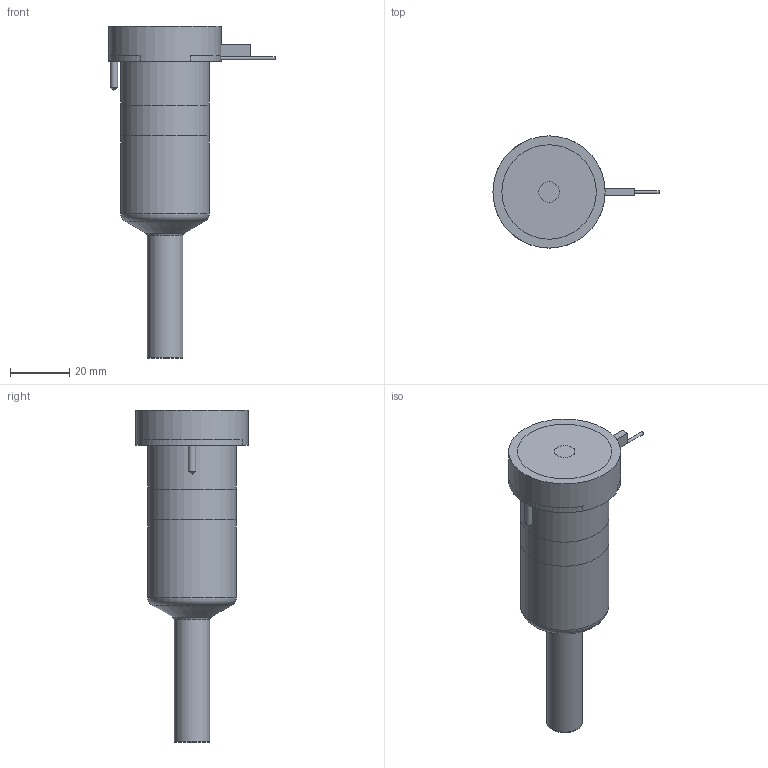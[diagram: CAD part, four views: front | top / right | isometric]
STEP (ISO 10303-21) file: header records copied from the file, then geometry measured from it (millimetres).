
FILE_DESCRIPTION(/* description */ (''),/* implementation_level */ '2;1');
FILE_NAME(/* name */ 'BXTSL-BXISL-BXOSL16065_200C_b',/* time_stamp */ '2008-04-29T14:05:57+12:00',/* author */ (''),/* organization */ (''),/* preprocessor_version */ 'ST-DEVELOPER v9',/* originating_system */ 'UGS - NX 4.0',/* authorisation */ '');
FILE_SCHEMA (('CONFIG_CONTROL_DESIGN'));
Length unit declared in the file: millimetre
Products named in the file (1): BXTSL-BXISL-BXOSL16065_200C_b
Bounding box: 56.25 x 38 x 112.46 mm (x, y, z)
Volume: 109879.8 mm3; surface area: 23509.6 mm2
Topology: 6 solids, 6 shells, 74 faces, 147 edges, 95 vertices
Faces by surface type: plane 35, cylinder 23, cone 8, torus 7, bspline 1
Full cylindrical faces by diameter (mm): 1 x4, 2.5 x2, 7 x1, 11.61 x1, 12.01 x2, 14.8 x1, 25.4 x1, 30 x2, 38 x1
Entity records: 1852 total; most frequent: CARTESIAN_POINT 368, DIRECTION 310, ORIENTED_EDGE 220, AXIS2_PLACEMENT_3D 136, EDGE_LOOP 112, EDGE_CURVE 110, VERTEX_POINT 87, ADVANCED_FACE 74
